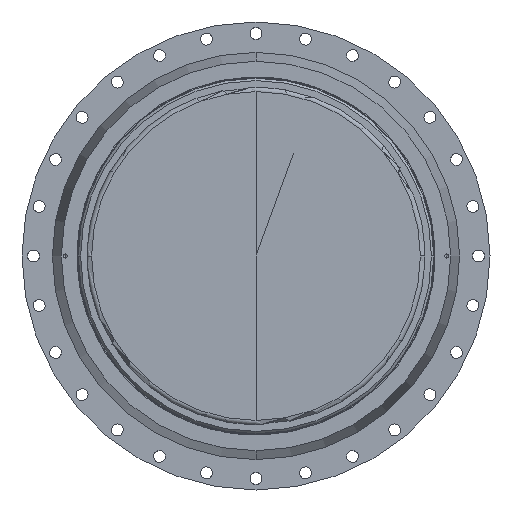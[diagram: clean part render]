
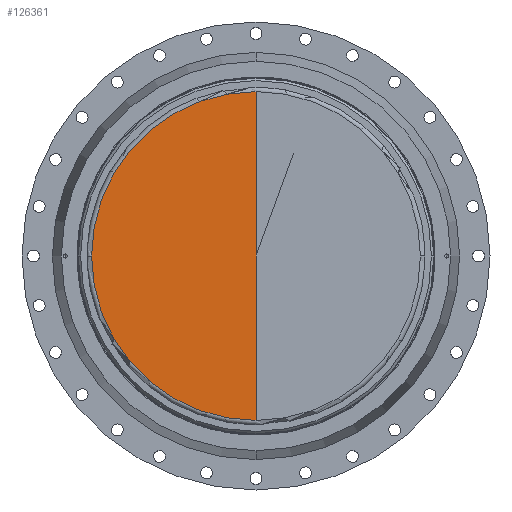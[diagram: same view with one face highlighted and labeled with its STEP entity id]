
A CAD part, front view. The second image highlights one B-rep face of the part: STEP entity #126361.
In plain terms, the highlighted conical face has half-angle 89.967 degrees and reference radius 413.728 mm.
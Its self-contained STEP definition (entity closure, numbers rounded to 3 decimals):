
#7070 = CIRCLE ( 'NONE', #135050, 413.728 ) ;
#8927 = ORIENTED_EDGE ( 'NONE', *, *, #23176, .T. ) ;
#9973 = DIRECTION ( 'NONE',  ( 0., 1., 0. ) ) ;
#18582 = ORIENTED_EDGE ( 'NONE', *, *, #92440, .F. ) ;
#21198 = ORIENTED_EDGE ( 'NONE', *, *, #87819, .F. ) ;
#23176 = EDGE_CURVE ( 'NONE', #73920, #125486, #42879, .T. ) ;
#23616 = VERTEX_POINT ( 'NONE', #99003 ) ;
#23635 = CARTESIAN_POINT ( 'NONE',  ( -413.728, -1011.919, 0. ) ) ;
#24316 = VECTOR ( 'NONE', #68064, 1000. ) ;
#28592 = FACE_OUTER_BOUND ( 'NONE', #50735, .T. ) ;
#39063 = CARTESIAN_POINT ( 'NONE',  ( 0., -1011.919, 0. ) ) ;
#40627 = CONICAL_SURFACE ( 'NONE', #46899, 413.728, 1.57 ) ;
#42879 = LINE ( 'NONE', #136509, #43144 ) ;
#43144 = VECTOR ( 'NONE', #103875, 1000. ) ;
#46899 = AXIS2_PLACEMENT_3D ( 'NONE', #39063, #71842, #105431 ) ;
#50735 = EDGE_LOOP ( 'NONE', ( #18582, #8927, #90655, #21198 ) ) ;
#52381 = CIRCLE ( 'NONE', #119669, 413.728 ) ;
#53707 = LINE ( 'NONE', #56936, #24316 ) ;
#56936 = CARTESIAN_POINT ( 'NONE',  ( 0., -1011.919, -413.728 ) ) ;
#66131 = DIRECTION ( 'NONE',  ( 0., 1., 0. ) ) ;
#68064 = DIRECTION ( 'NONE',  ( 0., -0.001, -1. ) ) ;
#71842 = DIRECTION ( 'NONE',  ( 0., -1., 0. ) ) ;
#73920 = VERTEX_POINT ( 'NONE', #104943 ) ;
#76126 = CARTESIAN_POINT ( 'NONE',  ( 0., -1011.919, 0. ) ) ;
#87149 = DIRECTION ( 'NONE',  ( 0., 0., 1. ) ) ;
#87819 = EDGE_CURVE ( 'NONE', #23616, #119030, #52381, .T. ) ;
#90226 = CARTESIAN_POINT ( 'NONE',  ( 0., -1011.919, 413.728 ) ) ;
#90655 = ORIENTED_EDGE ( 'NONE', *, *, #124643, .F. ) ;
#92440 = EDGE_CURVE ( 'NONE', #73920, #23616, #53707, .T. ) ;
#99003 = CARTESIAN_POINT ( 'NONE',  ( 0., -1011.919, -413.728 ) ) ;
#103875 = DIRECTION ( 'NONE',  ( 0., -0.001, 1. ) ) ;
#104943 = CARTESIAN_POINT ( 'NONE',  ( 0., -1011.684, 0. ) ) ;
#105431 = DIRECTION ( 'NONE',  ( 0., 0., -1. ) ) ;
#119030 = VERTEX_POINT ( 'NONE', #23635 ) ;
#119669 = AXIS2_PLACEMENT_3D ( 'NONE', #76126, #9973, #87149 ) ;
#124643 = EDGE_CURVE ( 'NONE', #119030, #125486, #7070, .T. ) ;
#125486 = VERTEX_POINT ( 'NONE', #90226 ) ;
#126361 = ADVANCED_FACE ( 'NONE', ( #28592 ), #40627, .F. ) ;
#131882 = CARTESIAN_POINT ( 'NONE',  ( 0., -1011.919, 0. ) ) ;
#135050 = AXIS2_PLACEMENT_3D ( 'NONE', #131882, #66131, #142889 ) ;
#136509 = CARTESIAN_POINT ( 'NONE',  ( 0., -1011.919, 413.728 ) ) ;
#142889 = DIRECTION ( 'NONE',  ( 0., 0., 1. ) ) ;
